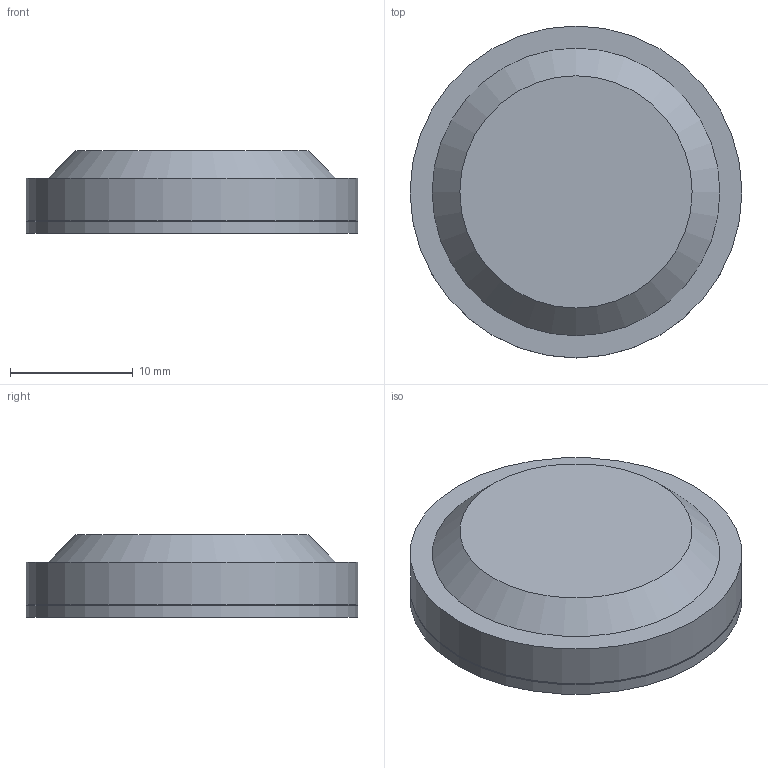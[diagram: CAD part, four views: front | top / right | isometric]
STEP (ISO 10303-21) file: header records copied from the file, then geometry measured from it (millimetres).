
FILE_DESCRIPTION(('HOOPS Exchange Step'),'2;1');
FILE_NAME('C:\Users\graig\Desktop\00 Projects\07 3D\Oshi\piece.stp','2026-06-27T17:24:38+01:00',('graig'),('Unknown organisation'),'HOOPS Exchange 2025.8','HOOPS Exchange','Unknown authorisation');
FILE_SCHEMA( ('AP203_CONFIGURATION_CONTROLLED_3D_DESIGN_OF_MECHANICAL_PARTS_AND_ASSEMBLIES_MIM_LF') );
Length unit declared in the file: millimetre
Products named in the file (2): 0; root
Assembly tree (1 placements, depth 2):
  root
    0
Bounding box: 27 x 27 x 6.75 mm (x, y, z)
Volume: 2438.4 mm3; surface area: 1678.5 mm2
Topology: 1 solids, 1 shells, 13 faces, 24 edges, 17 vertices
Faces by surface type: plane 6, cone 3, cylinder 2, torus 2
Full cylindrical faces by diameter (mm): 27 x2
Entity records: 381 total; most frequent: DIRECTION 75, CARTESIAN_POINT 57, ORIENTED_EDGE 48, AXIS2_PLACEMENT_3D 35, EDGE_CURVE 24, CIRCLE 19, VERTEX_POINT 17, EDGE_LOOP 17
